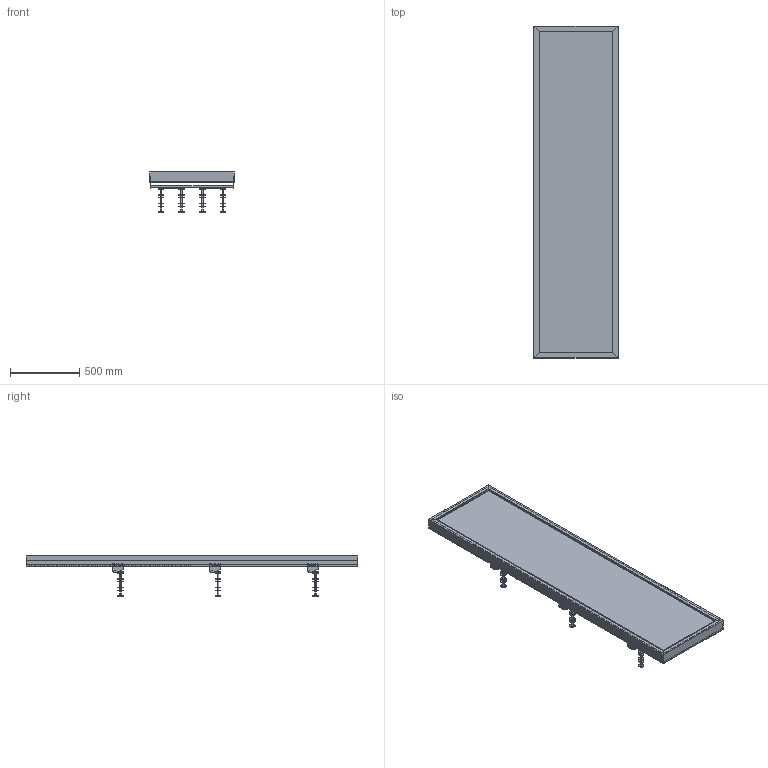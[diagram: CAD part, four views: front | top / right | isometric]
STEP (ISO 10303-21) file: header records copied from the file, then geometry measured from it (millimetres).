
FILE_DESCRIPTION (( 'STEP AP203' ), '1' );
FILE_NAME ('Padel Racket Display 610mm - 3 Tier Straight Holder.STEP', '2026-03-30T11:24:46', ( '' ), ( '' ), 'SwSTEP 2.0', 'SolidWorks 2025', '' );
FILE_SCHEMA (( 'CONFIG_CONTROL_DESIGN' ));
Length unit declared in the file: millimetre
Products named in the file (7): 369-01-GA01; 0001-31-103.STEP; 0001-31-GA01 - 610W Slotted Upright; Padel Racket Display 610mm - 3 Tier Straight Holder; 0001-31-SA23 - 610W Rear Support Bar.STEP; 0001-31-SA23 - 610W Rear Support Bar_Assem6; 0001-31-102.STEP
Assembly tree (14 placements, depth 4):
  Padel Racket Display 610mm - 3 Tier Straight Holder
    0001-31-GA01 - 610W Slotted Upright
    0001-31-SA23 - 610W Rear Support Bar_Assem6  x3
      0001-31-SA23 - 610W Rear Support Bar.STEP
        0001-31-102.STEP
        0001-31-103.STEP  x2
    369-01-GA01  x6
Bounding box: 609.75 x 2400 x 290.15 mm (x, y, z)
Volume: 7365272.1 mm3; surface area: 8662276.8 mm2
Topology: 105 solids, 105 shells, 1278 faces, 3378 edges, 2236 vertices
Faces by surface type: plane 780, cylinder 498
Entity records: 19992 total; most frequent: CARTESIAN_POINT 3689, ORIENTED_EDGE 3410, DIRECTION 2887, EDGE_CURVE 1705, VECTOR 1455, LINE 1455, VERTEX_POINT 1134, AXIS2_PLACEMENT_3D 716
